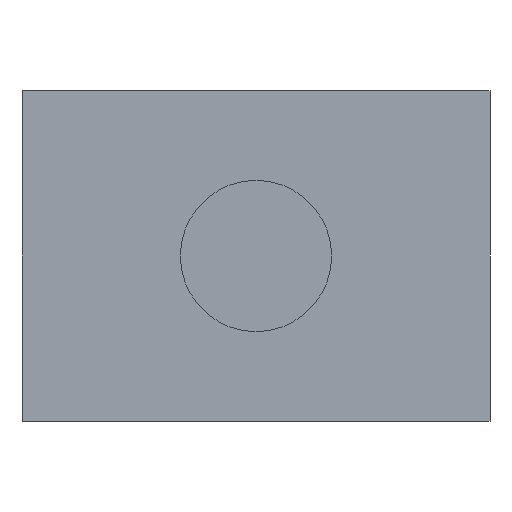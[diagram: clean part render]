
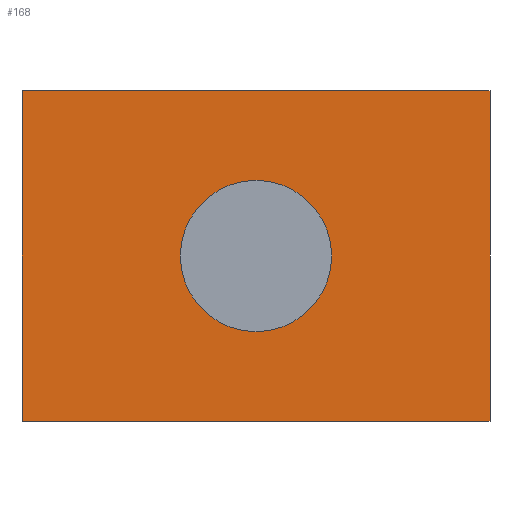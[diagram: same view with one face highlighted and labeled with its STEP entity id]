
A CAD part, front view. The second image highlights one B-rep face of the part: STEP entity #168.
In plain terms, the highlighted planar face has unit normal (0, -1, 0).
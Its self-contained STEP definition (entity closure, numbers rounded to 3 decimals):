
#16=FACE_BOUND('',#39,.T.);
#18=CIRCLE('',#179,1.6);
#27=FACE_OUTER_BOUND('',#38,.T.);
#38=EDGE_LOOP('',(#137,#138,#139,#140));
#39=EDGE_LOOP('',(#141));
#50=LINE('',#249,#68);
#55=LINE('',#265,#73);
#57=LINE('',#269,#75);
#58=LINE('',#270,#76);
#68=VECTOR('',#201,10.);
#73=VECTOR('',#218,10.);
#75=VECTOR('',#222,10.);
#76=VECTOR('',#223,10.);
#84=VERTEX_POINT('',#246);
#85=VERTEX_POINT('',#248);
#89=VERTEX_POINT('',#260);
#90=VERTEX_POINT('',#264);
#91=VERTEX_POINT('',#268);
#100=EDGE_CURVE('',#84,#85,#50,.T.);
#106=EDGE_CURVE('',#89,#89,#18,.T.);
#107=EDGE_CURVE('',#90,#85,#55,.T.);
#109=EDGE_CURVE('',#91,#90,#57,.T.);
#110=EDGE_CURVE('',#91,#84,#58,.T.);
#137=ORIENTED_EDGE('',*,*,#109,.T.);
#138=ORIENTED_EDGE('',*,*,#107,.T.);
#139=ORIENTED_EDGE('',*,*,#100,.F.);
#140=ORIENTED_EDGE('',*,*,#110,.F.);
#141=ORIENTED_EDGE('',*,*,#106,.T.);
#158=PLANE('',#182);
#168=ADVANCED_FACE('',(#27,#16),#158,.T.);
#179=AXIS2_PLACEMENT_3D('',#261,#212,#213);
#182=AXIS2_PLACEMENT_3D('',#267,#220,#221);
#201=DIRECTION('',(1.,0.,0.));
#212=DIRECTION('center_axis',(0.,1.,0.));
#213=DIRECTION('ref_axis',(-1.,0.,0.));
#218=DIRECTION('',(0.,0.,1.));
#220=DIRECTION('center_axis',(0.,-1.,0.));
#221=DIRECTION('ref_axis',(1.,0.,0.));
#222=DIRECTION('',(1.,0.,0.));
#223=DIRECTION('',(0.,0.,1.));
#246=CARTESIAN_POINT('',(-9.9,-5.,7.));
#248=CARTESIAN_POINT('',(0.,-5.,7.));
#249=CARTESIAN_POINT('',(-9.9,-5.,7.));
#260=CARTESIAN_POINT('',(-3.35,-5.,3.5));
#261=CARTESIAN_POINT('Origin',(-4.95,-5.,3.5));
#264=CARTESIAN_POINT('',(0.,-5.,0.));
#265=CARTESIAN_POINT('',(0.,-5.,0.));
#267=CARTESIAN_POINT('Origin',(-9.9,-5.,0.));
#268=CARTESIAN_POINT('',(-9.9,-5.,0.));
#269=CARTESIAN_POINT('',(-9.9,-5.,0.));
#270=CARTESIAN_POINT('',(-9.9,-5.,0.));
